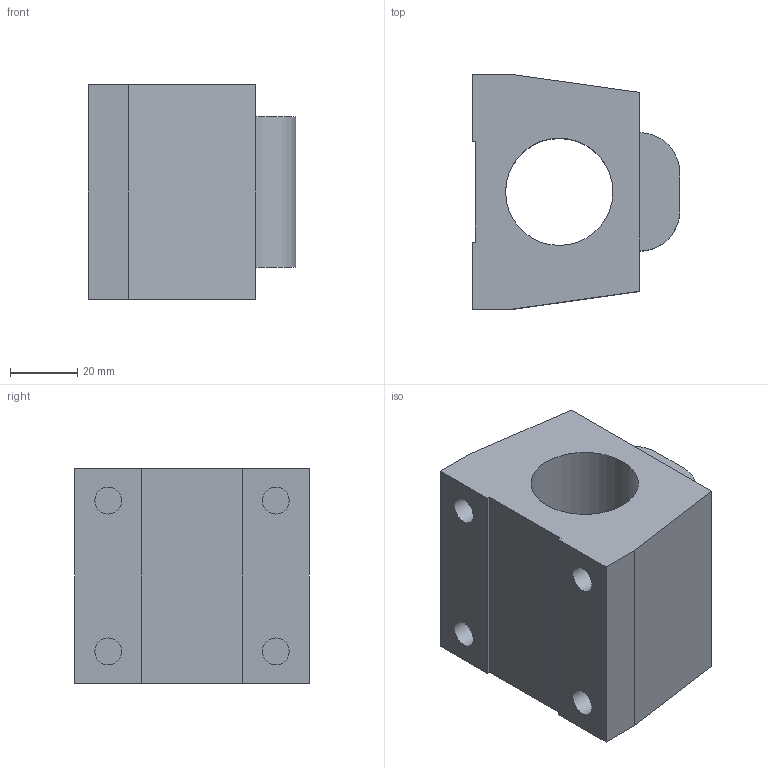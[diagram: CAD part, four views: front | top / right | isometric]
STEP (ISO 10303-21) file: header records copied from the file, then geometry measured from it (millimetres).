
FILE_DESCRIPTION(/* description */ (''),/* implementation_level */ '2;1');
FILE_NAME(/* name */ '32-10B1',/* time_stamp */ '2007-05-17T17:55:07+08:00',/* author */ (''),/* organization */ (''),/* preprocessor_version */ 'ST-DEVELOPER v9',/* originating_system */ 'UGS - NX 4.0',/* authorisation */ '');
FILE_SCHEMA (('CONFIG_CONTROL_DESIGN'));
Length unit declared in the file: millimetre
Products named in the file (1): 32-10B1
Bounding box: 62 x 70 x 64 mm (x, y, z)
Volume: 171498.1 mm3; surface area: 28758.7 mm2
Topology: 1 solids, 1 shells, 26 faces, 57 edges, 38 vertices
Faces by surface type: plane 19, cylinder 7
Full cylindrical faces by diameter (mm): 8 x4, 32 x1
Entity records: 780 total; most frequent: DIRECTION 120, CARTESIAN_POINT 117, ORIENTED_EDGE 104, EDGE_CURVE 52, AXIS2_PLACEMENT_3D 41, EDGE_LOOP 38, VERTEX_POINT 38, LINE 38
